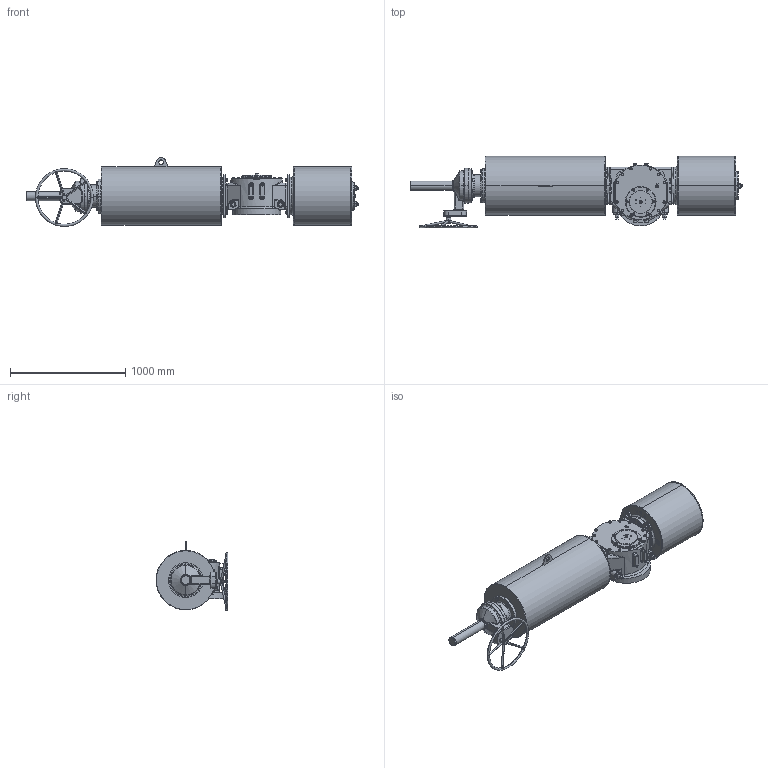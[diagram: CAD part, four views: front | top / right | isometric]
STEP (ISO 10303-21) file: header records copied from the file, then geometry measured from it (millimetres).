
FILE_DESCRIPTION (( 'STEP AP203' ), '1' );
FILE_NAME ('VTS5-500-SR-MG-FO.STEP', '2023-01-01T09:41:16', ( '' ), ( '' ), 'SwSTEP 2.0', 'SolidWorks 2020', '' );
FILE_SCHEMA (( 'CONFIG_CONTROL_DESIGN' ));
Length unit declared in the file: millimetre
Products named in the file (1): VTS5-500-SR-MG-FO
Bounding box: 2875.5 x 622 x 596.5 mm (x, y, z)
Volume: 397659756.4 mm3; surface area: 6090695.2 mm2
Topology: 4 solids, 15 shells, 2895 faces, 7395 edges, 4615 vertices
Faces by surface type: plane 1141, cylinder 934, cone 653, bspline 127, torus 40
Entity records: 107671 total; most frequent: CARTESIAN_POINT 39054, ORIENTED_EDGE 14554, DIRECTION 14285, EDGE_CURVE 7277, AXIS2_PLACEMENT_3D 5706, VERTEX_POINT 4615, EDGE_LOOP 3230, CIRCLE 2937
